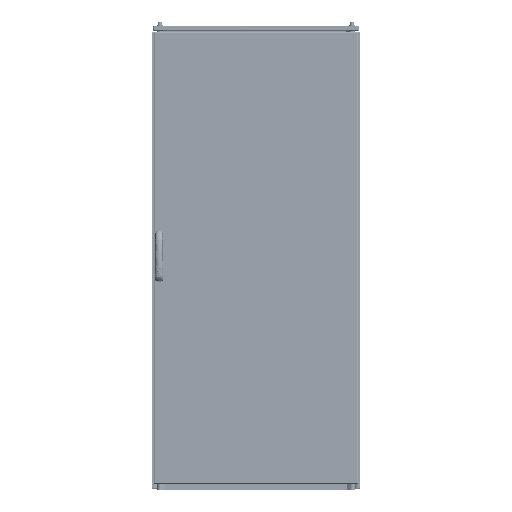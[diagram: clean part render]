
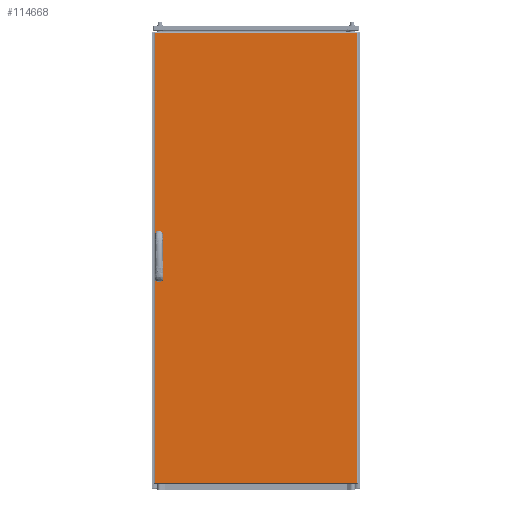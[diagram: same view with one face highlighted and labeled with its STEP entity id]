
A CAD part, top view. The second image highlights one B-rep face of the part: STEP entity #114668.
In plain terms, the highlighted planar face has unit normal (0, 0, 1).
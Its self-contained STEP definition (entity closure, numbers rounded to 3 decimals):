
#10810 = CIRCLE ( 'NONE', #227530, 9.5 ) ;
#14341 = CIRCLE ( 'NONE', #190763, 9.5 ) ;
#16177 = VECTOR ( 'NONE', #235230, 1000. ) ;
#16729 = ORIENTED_EDGE ( 'NONE', *, *, #157514, .F. ) ;
#26848 = VERTEX_POINT ( 'NONE', #70498 ) ;
#34104 = CARTESIAN_POINT ( 'NONE',  ( 3., 1757., 19. ) ) ;
#34960 = DIRECTION ( 'NONE',  ( 0., 0., 1. ) ) ;
#35313 = EDGE_CURVE ( 'NONE', #130769, #266155, #200159, .T. ) ;
#40913 = DIRECTION ( 'NONE',  ( 1., 0., 0. ) ) ;
#41989 = AXIS2_PLACEMENT_3D ( 'NONE', #54922, #173271, #106844 ) ;
#45677 = EDGE_LOOP ( 'NONE', ( #16729, #292817, #70403, #87296 ) ) ;
#46703 = DIRECTION ( 'NONE',  ( 0., 1., 0. ) ) ;
#48037 = CARTESIAN_POINT ( 'NONE',  ( 0., 3., 19. ) ) ;
#49788 = FACE_OUTER_BOUND ( 'NONE', #291109, .T. ) ;
#54478 = VERTEX_POINT ( 'NONE', #100841 ) ;
#54667 = VECTOR ( 'NONE', #156839, 1000. ) ;
#54922 = CARTESIAN_POINT ( 'NONE',  ( 19.2, 799.75, 19. ) ) ;
#56180 = VERTEX_POINT ( 'NONE', #141080 ) ;
#57556 = DIRECTION ( 'NONE',  ( 0., 0., 1. ) ) ;
#60113 = ORIENTED_EDGE ( 'NONE', *, *, #112139, .T. ) ;
#68042 = CARTESIAN_POINT ( 'NONE',  ( 792., 1757., 19. ) ) ;
#70403 = ORIENTED_EDGE ( 'NONE', *, *, #288299, .F. ) ;
#70498 = CARTESIAN_POINT ( 'NONE',  ( 9.7, 960.25, 19. ) ) ;
#71130 = AXIS2_PLACEMENT_3D ( 'NONE', #100207, #57556, #172771 ) ;
#73487 = LINE ( 'NONE', #261343, #104732 ) ;
#74755 = VERTEX_POINT ( 'NONE', #68042 ) ;
#76344 = DIRECTION ( 'NONE',  ( 1., 0., 0. ) ) ;
#80857 = FACE_BOUND ( 'NONE', #45677, .T. ) ;
#87296 = ORIENTED_EDGE ( 'NONE', *, *, #159897, .F. ) ;
#95232 = ORIENTED_EDGE ( 'NONE', *, *, #271554, .F. ) ;
#96618 = CARTESIAN_POINT ( 'NONE',  ( 792., 1760., 19. ) ) ;
#100207 = CARTESIAN_POINT ( 'NONE',  ( 19.2, 847.75, 19. ) ) ;
#100841 = CARTESIAN_POINT ( 'NONE',  ( 9.7, 799.75, 19. ) ) ;
#102317 = CARTESIAN_POINT ( 'NONE',  ( 3., 1760., 19. ) ) ;
#104732 = VECTOR ( 'NONE', #46703, 1000. ) ;
#106844 = DIRECTION ( 'NONE',  ( 1., 0., 0. ) ) ;
#111892 = CARTESIAN_POINT ( 'NONE',  ( 19.2, 960.25, 19. ) ) ;
#112139 = EDGE_CURVE ( 'NONE', #236509, #74755, #238685, .T. ) ;
#114668 = ADVANCED_FACE ( 'NONE', ( #311758, #80857, #49788 ), #128195, .F. ) ;
#124229 = VECTOR ( 'NONE', #76344, 1000. ) ;
#126400 = EDGE_LOOP ( 'NONE', ( #284697, #143815, #240113, #95232 ) ) ;
#128195 = PLANE ( 'NONE',  #214045 ) ;
#129736 = EDGE_CURVE ( 'NONE', #266155, #236509, #144261, .T. ) ;
#130682 = VECTOR ( 'NONE', #185678, 1000. ) ;
#130769 = VERTEX_POINT ( 'NONE', #34104 ) ;
#131181 = DIRECTION ( 'NONE',  ( 1., 0., 0. ) ) ;
#141080 = CARTESIAN_POINT ( 'NONE',  ( 28.7, 799.75, 19. ) ) ;
#143815 = ORIENTED_EDGE ( 'NONE', *, *, #288924, .F. ) ;
#144261 = LINE ( 'NONE', #48037, #124229 ) ;
#151163 = CARTESIAN_POINT ( 'NONE',  ( 28.7, 912.25, 19. ) ) ;
#154436 = DIRECTION ( 'NONE',  ( 0., -1., 0. ) ) ;
#155455 = VERTEX_POINT ( 'NONE', #151163 ) ;
#156839 = DIRECTION ( 'NONE',  ( -1., 0., 0. ) ) ;
#157514 = EDGE_CURVE ( 'NONE', #26848, #193576, #253569, .T. ) ;
#159897 = EDGE_CURVE ( 'NONE', #193576, #155455, #10810, .T. ) ;
#160617 = VECTOR ( 'NONE', #249054, 1000. ) ;
#167664 = DIRECTION ( 'NONE',  ( 0., 1., 0. ) ) ;
#171530 = ORIENTED_EDGE ( 'NONE', *, *, #129736, .T. ) ;
#172433 = ORIENTED_EDGE ( 'NONE', *, *, #191288, .T. ) ;
#172771 = DIRECTION ( 'NONE',  ( 1., 0., 0. ) ) ;
#173271 = DIRECTION ( 'NONE',  ( 0., 0., 1. ) ) ;
#176991 = CARTESIAN_POINT ( 'NONE',  ( 19.2, 912.25, 19. ) ) ;
#177548 = EDGE_CURVE ( 'NONE', #56180, #222873, #73487, .T. ) ;
#178050 = CIRCLE ( 'NONE', #41989, 9.5 ) ;
#178688 = CARTESIAN_POINT ( 'NONE',  ( 9.7, 847.75, 19. ) ) ;
#182708 = CARTESIAN_POINT ( 'NONE',  ( 9.7, 847.75, 19. ) ) ;
#185651 = EDGE_CURVE ( 'NONE', #258278, #54478, #230093, .T. ) ;
#185678 = DIRECTION ( 'NONE',  ( 0., -1., 0. ) ) ;
#189462 = CARTESIAN_POINT ( 'NONE',  ( 28.7, 960.25, 19. ) ) ;
#190763 = AXIS2_PLACEMENT_3D ( 'NONE', #111892, #257081, #40913 ) ;
#191288 = EDGE_CURVE ( 'NONE', #74755, #130769, #205769, .T. ) ;
#193576 = VERTEX_POINT ( 'NONE', #269597 ) ;
#194950 = DIRECTION ( 'NONE',  ( 0., 0., -1. ) ) ;
#200159 = LINE ( 'NONE', #102317, #160617 ) ;
#205769 = LINE ( 'NONE', #208868, #54667 ) ;
#208868 = CARTESIAN_POINT ( 'NONE',  ( 0., 1757., 19. ) ) ;
#214045 = AXIS2_PLACEMENT_3D ( 'NONE', #218629, #194950, #297047 ) ;
#218629 = CARTESIAN_POINT ( 'NONE',  ( 0., 1760., 19. ) ) ;
#222873 = VERTEX_POINT ( 'NONE', #299692 ) ;
#227530 = AXIS2_PLACEMENT_3D ( 'NONE', #176991, #34960, #131181 ) ;
#230093 = LINE ( 'NONE', #182708, #259439 ) ;
#230984 = CARTESIAN_POINT ( 'NONE',  ( 28.7, 960.25, 19. ) ) ;
#235230 = DIRECTION ( 'NONE',  ( 0., 1., 0. ) ) ;
#236509 = VERTEX_POINT ( 'NONE', #266711 ) ;
#238685 = LINE ( 'NONE', #96618, #268398 ) ;
#240113 = ORIENTED_EDGE ( 'NONE', *, *, #177548, .F. ) ;
#249054 = DIRECTION ( 'NONE',  ( 0., -1., 0. ) ) ;
#253569 = LINE ( 'NONE', #305576, #130682 ) ;
#257081 = DIRECTION ( 'NONE',  ( 0., 0., 1. ) ) ;
#258278 = VERTEX_POINT ( 'NONE', #178688 ) ;
#258922 = LINE ( 'NONE', #189462, #16177 ) ;
#259439 = VECTOR ( 'NONE', #154436, 1000. ) ;
#261343 = CARTESIAN_POINT ( 'NONE',  ( 28.7, 847.75, 19. ) ) ;
#262525 = CARTESIAN_POINT ( 'NONE',  ( 3., 3., 19. ) ) ;
#262708 = EDGE_CURVE ( 'NONE', #294934, #26848, #14341, .T. ) ;
#266155 = VERTEX_POINT ( 'NONE', #262525 ) ;
#266711 = CARTESIAN_POINT ( 'NONE',  ( 792., 3., 19. ) ) ;
#268398 = VECTOR ( 'NONE', #167664, 1000. ) ;
#269597 = CARTESIAN_POINT ( 'NONE',  ( 9.7, 912.25, 19. ) ) ;
#271554 = EDGE_CURVE ( 'NONE', #54478, #56180, #178050, .T. ) ;
#284697 = ORIENTED_EDGE ( 'NONE', *, *, #185651, .F. ) ;
#285711 = ORIENTED_EDGE ( 'NONE', *, *, #35313, .T. ) ;
#287799 = CIRCLE ( 'NONE', #71130, 9.5 ) ;
#288299 = EDGE_CURVE ( 'NONE', #155455, #294934, #258922, .T. ) ;
#288924 = EDGE_CURVE ( 'NONE', #222873, #258278, #287799, .T. ) ;
#291109 = EDGE_LOOP ( 'NONE', ( #60113, #172433, #285711, #171530 ) ) ;
#292817 = ORIENTED_EDGE ( 'NONE', *, *, #262708, .F. ) ;
#294934 = VERTEX_POINT ( 'NONE', #230984 ) ;
#297047 = DIRECTION ( 'NONE',  ( -1., 0., 0. ) ) ;
#299692 = CARTESIAN_POINT ( 'NONE',  ( 28.7, 847.75, 19. ) ) ;
#305576 = CARTESIAN_POINT ( 'NONE',  ( 9.7, 960.25, 19. ) ) ;
#311758 = FACE_BOUND ( 'NONE', #126400, .T. ) ;
